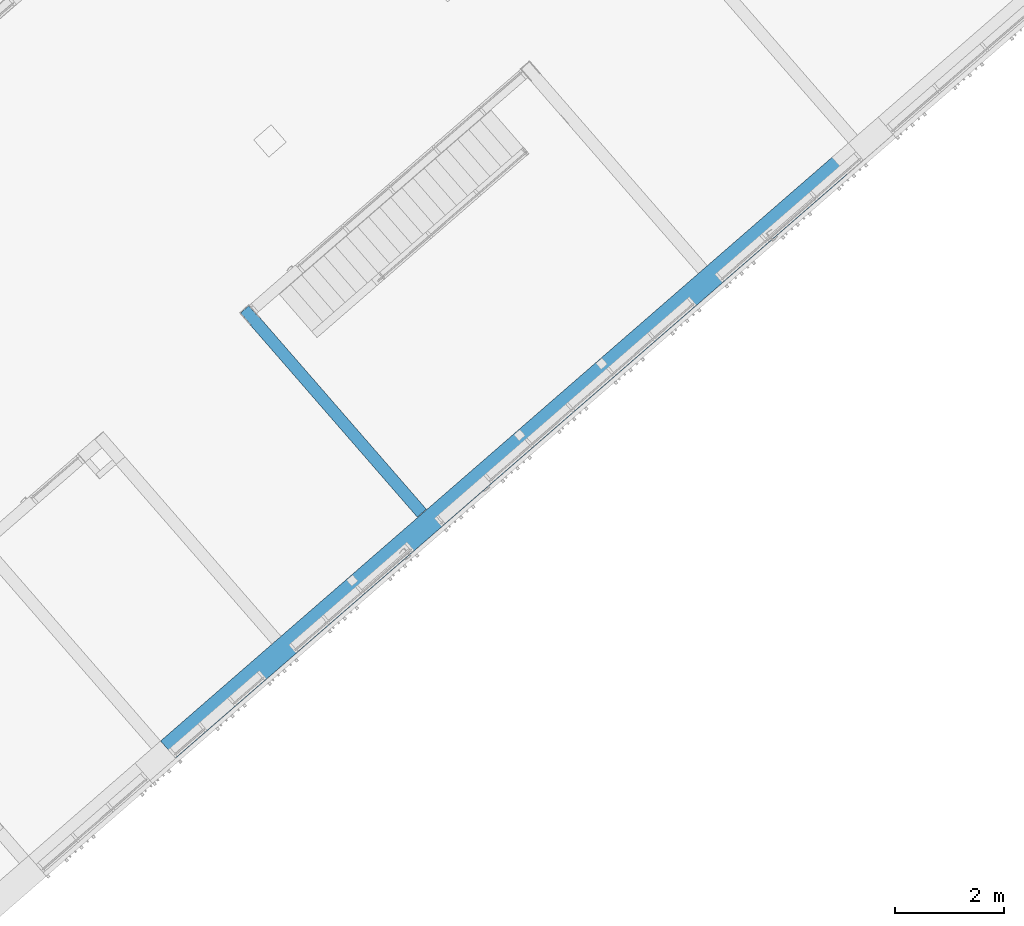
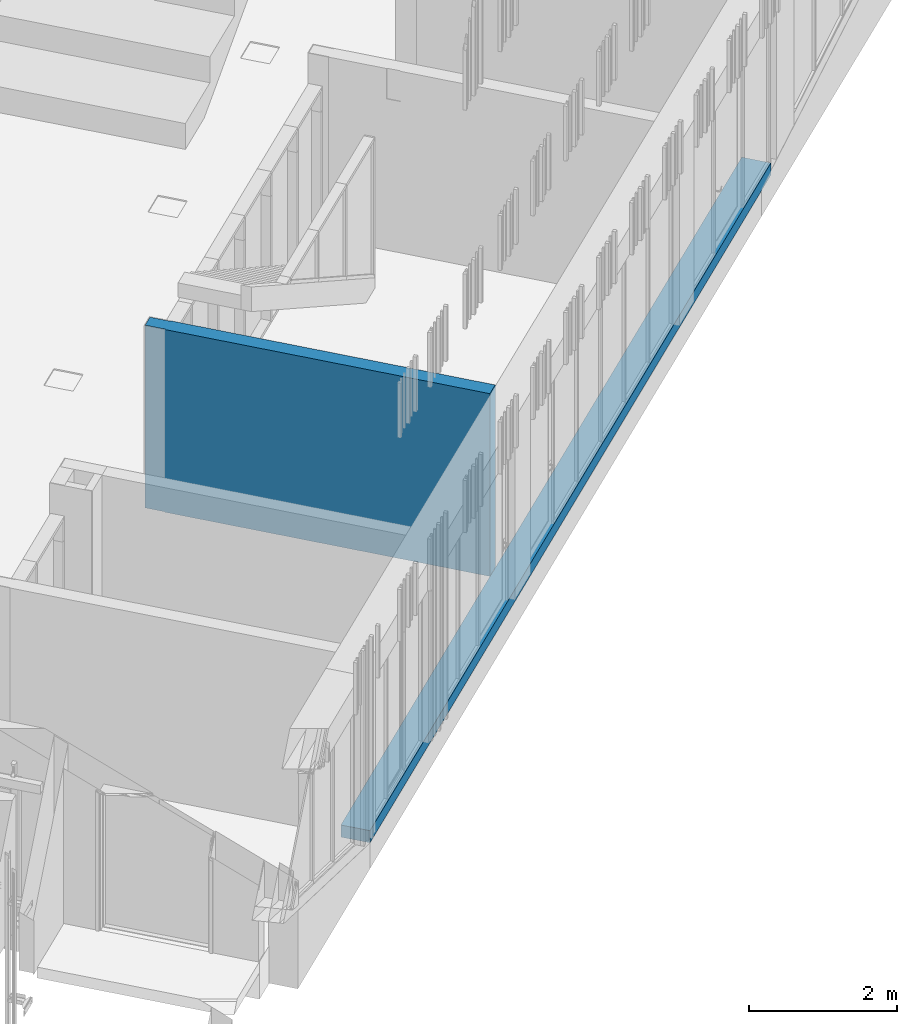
# One storey, part 65 of 124: 2 walls.
"""IFC2X3 building model written with IfcOpenShell, lengths in millimetres."""

from ifc_helpers import new_model, entity, si_unit, converted_unit, derived_unit, money_unit, direction, frame, origin_with_axes, place, context, subcontext, project, spatial, faceted_brep, material, material_list, type_object, element, save


model = new_model("IFC2X3")

# Units and contexts
model_context = context("Model", 3, precision=1e-05, world=origin_with_axes(), true_north=direction((0.0, 1.0)))
body_context = subcontext(model_context, "Body", "Model", "MODEL_VIEW")
ifc_project = project(units=[si_unit("LENGTHUNIT", "METRE", prefix="MILLI"), si_unit("AREAUNIT", "SQUARE_METRE"), si_unit("VOLUMEUNIT", "CUBIC_METRE"), converted_unit("PLANEANGLEUNIT", "DEGREE", entity("IfcPlaneAngleMeasure", 0.0174532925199), si_unit("PLANEANGLEUNIT", "RADIAN"), dimensions=[0, 0, 0, 0, 0, 0, 0]), si_unit("SOLIDANGLEUNIT", "STERADIAN"), money_unit("EUR"), converted_unit("TIMEUNIT", "Year", entity("IfcTimeMeasure", 31556926.0), si_unit("TIMEUNIT", "SECOND"), dimensions=[0, 0, 1, 0, 0, 0, 0]), si_unit("MASSUNIT", "GRAM", prefix="KILO"), si_unit("THERMODYNAMICTEMPERATUREUNIT", "DEGREE_CELSIUS"), si_unit("LUMINOUSINTENSITYUNIT", "LUMEN"), si_unit("ENERGYUNIT", "JOULE", prefix="MEGA"), derived_unit("THERMALCONDUCTANCEUNIT", [(si_unit("POWERUNIT", "WATT"), 1), (si_unit("LENGTHUNIT", "METRE"), -1), (si_unit("THERMODYNAMICTEMPERATUREUNIT", "KELVIN"), -1)]), derived_unit("SPECIFICHEATCAPACITYUNIT", [(si_unit("ENERGYUNIT", "JOULE"), 1), (si_unit("MASSUNIT", "GRAM", prefix="KILO"), -1), (si_unit("THERMODYNAMICTEMPERATUREUNIT", "KELVIN"), -1)]), derived_unit("MASSDENSITYUNIT", [(si_unit("MASSUNIT", "GRAM", prefix="KILO"), 1), (si_unit("VOLUMEUNIT", "CUBIC_METRE"), -1)])], contexts=[model_context])

# Site, building, storey
site_placement = place(None, origin_with_axes())
site = spatial("IfcSite", under=ifc_project, at=site_placement, Name="Site", CompositionType="ELEMENT")
building_placement = place(site_placement, origin_with_axes())
building = spatial("IfcBuilding", under=site, at=building_placement, Name="Building", CompositionType="ELEMENT")
storey_placement = place(building_placement, frame((0.0, 0.0, -1615.0), z_axis=(0.0, 0.0, 1.0), x_axis=(1.0, 0.0, 0.0)))
storey = spatial("IfcBuildingStorey", under=building, at=storey_placement, Name="0  korrus", CompositionType="ELEMENT", Elevation=-1615.0)

# Walls
ifc_material_1 = material(Name="Krohv - Lubjakivi")
ifc_material_2 = material(Name="Müüriplokk - Konstuktsioon")
ifc_material_list_1 = material_list([ifc_material_1, ifc_material_2, ifc_material_1])
wall_type_1 = type_object("IfcWallType", Name="SS-01", PredefinedType="NOTDEFINED")
wall_1_placement = place(storey_placement, frame((154399.536139, 86111.8069754, -20.0), z_axis=(0.0, 0.0, 1.0), x_axis=(0.656059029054, -0.754709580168, 0.0)))
element("IfcWall", 1, at=wall_1_placement, inside=storey, type_object=wall_type_1, material=ifc_material_list_1, Name="SS-01", context=body_context, shape_type="Brep", body=[
    faceted_brep([(300.0, 220.0, 0.0), (300.0, 220.0, 3020.0), (4950.0, 220.0, 3020.0), (4950.0, 220.0, 0.0), (300.0, 210.0, 3020.0), (300.0, 210.0, 0.0), (4950.0, 210.0, 3020.0), (4950.0, 210.0, 0.0)], [[[0, 1, 2, 3]], [[4, 1, 0, 5]], [[1, 4, 6, 2]], [[6, 7, 3, 2]], [[5, 0, 3, 7]], [[4, 5, 7, 6]]]),
    faceted_brep([(9.99999999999, 210.0, 0.0), (9.99999999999, 210.0, 3020.0), (4950.0, 210.0, 3020.0), (4950.0, 210.0, 0.0), (10.0, 9.99999999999, 3020.0), (10.0, 9.99999999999, 0.0), (4950.0, 9.99999999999, 3020.0), (4950.0, 9.99999999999, 0.0)], [[[0, 1, 2, 3]], [[4, 1, 0, 5]], [[1, 4, 6, 2]], [[2, 6, 7, 3]], [[5, 0, 3, 7]], [[4, 5, 7, 6]]]),
    faceted_brep([(300.0, 9.99999999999, 0.0), (300.0, 9.99999999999, 3020.0), (4950.0, 9.99999999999, 3020.0), (4950.0, 9.99999999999, 0.0), (300.0, 0.0, 3020.0), (300.0, 0.0, 0.0), (4950.0, 0.0, 3020.0), (4950.0, 0.0, 0.0)], [[[0, 1, 2, 3]], [[4, 1, 0, 5]], [[1, 4, 6, 2]], [[6, 7, 3, 2]], [[5, 0, 3, 7]], [[4, 5, 7, 6]]]),
])
ifc_material_3 = material(Name="Raudbetoon - Konstruktsioon")
ifc_material_4 = material(Name="Soojustus - Plastik Kõva")
ifc_material_5 = material(Name="Plaat - Sein")
ifc_material_list_2 = material_list([ifc_material_1, ifc_material_3, ifc_material_4, ifc_material_4, ifc_material_5])
wall_type_2 = type_object("IfcWallType", Name="VS-05", PredefinedType="NOTDEFINED")
wall_2_placement = place(storey_placement, frame((152951.748256, 78281.199721, -200.0), z_axis=(0.0, 0.0, 1.0), x_axis=(0.754709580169, 0.656059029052, 0.0)))
element("IfcWall", 2, at=wall_2_placement, inside=storey, type_object=wall_type_2, material=ifc_material_list_2, Name="VS-05", context=body_context, shape_type="Brep", body=[
    faceted_brep([(16670.000001, -10.0, 200.000000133), (16670.000001, 0.0, 200.000000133), (0.0, 0.0, 200.000000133), (0.0, -10.0, 200.000000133), (16670.000001, -10.0, 0.0), (16670.000001, 0.0, 0.0), (0.0, 0.0, 0.0), (0.0, -10.0, 0.0)], [[[0, 1, 2, 3]], [[0, 4, 5, 1]], [[1, 5, 6, 2]], [[3, 2, 6, 7]], [[4, 0, 3, 7]], [[5, 4, 7, 6]]]),
    faceted_brep([(16670.000001, -210.0, 200.000000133), (16670.000001, -10.0, 200.000000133), (0.0, -10.0, 200.000000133), (0.0, -210.0, 200.000000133), (16670.000001, -210.0, 0.0), (16670.000001, -10.0, 0.0), (0.0, -10.0, 0.0), (0.0, -210.0, 0.0)], [[[0, 1, 2, 3]], [[0, 4, 5, 1]], [[1, 5, 6, 2]], [[3, 2, 6, 7]], [[4, 0, 3, 7]], [[5, 4, 7, 6]]]),
    faceted_brep([(16670.000001, -360.0, 200.000000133), (16670.000001, -210.0, 200.000000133), (0.0, -210.0, 200.000000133), (0.0, -360.0, 200.000000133), (16670.000001, -360.0, 0.0), (16670.000001, -210.0, 0.0), (0.0, -210.0, 0.0), (0.0, -360.0, 0.0)], [[[0, 1, 2, 3]], [[0, 4, 5, 1]], [[1, 5, 6, 2]], [[3, 2, 6, 7]], [[4, 0, 3, 7]], [[5, 4, 7, 6]]]),
    faceted_brep([(16670.000001, -410.0, 200.000000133), (16670.000001, -360.0, 200.000000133), (0.0, -360.0, 200.000000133), (0.0, -410.0, 200.000000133), (16670.000001, -410.0, 0.0), (16670.000001, -360.0, 0.0), (0.0, -360.0, 0.0), (0.0, -410.0, 0.0)], [[[0, 1, 2, 3]], [[0, 4, 5, 1]], [[1, 5, 6, 2]], [[3, 2, 6, 7]], [[4, 0, 3, 7]], [[5, 4, 7, 6]]]),
    faceted_brep([(16670.000001, -418.0, 200.000000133), (16670.000001, -410.0, 200.000000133), (0.0, -410.0, 200.000000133), (0.0, -418.0, 200.000000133), (16670.000001, -418.0, 0.0), (16670.000001, -410.0, 0.0), (0.0, -410.0, 0.0), (0.0, -418.0, 0.0)], [[[0, 1, 2, 3]], [[0, 4, 5, 1]], [[1, 5, 6, 2]], [[3, 2, 6, 7]], [[4, 0, 3, 7]], [[5, 4, 7, 6]]]),
])

save(model, "model.ifc")
